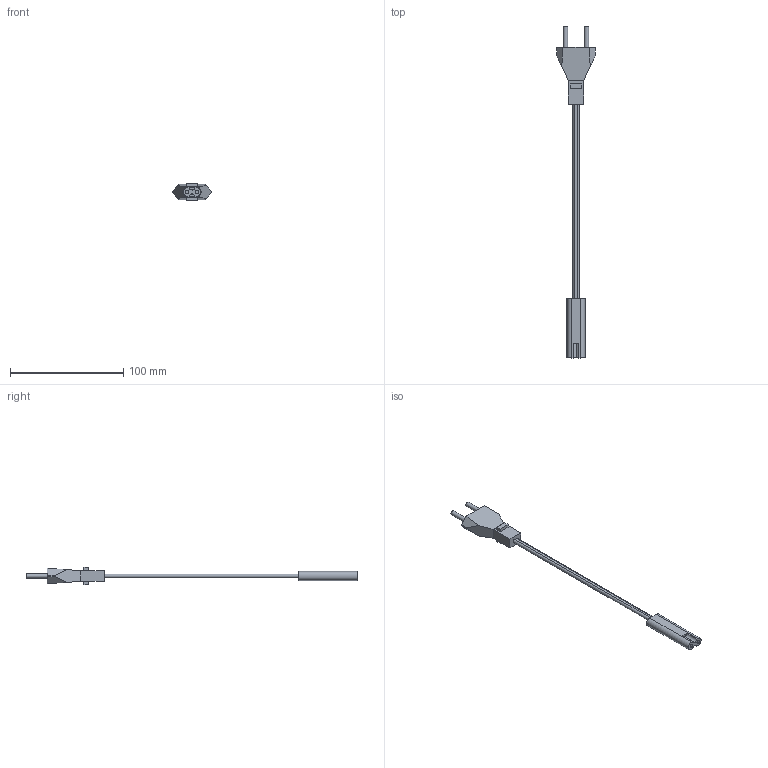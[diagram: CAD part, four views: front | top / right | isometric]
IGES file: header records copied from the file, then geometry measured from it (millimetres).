
Start section: Data from Parasolid IGES Translator 20.0.26, Copyright(c) 2006 Siemens P LM Software. All Rights Reserved.
Global section: file name: 9309943.igs; native system: By Siemens PLM Incorporated; preprocessor: XPlus GENERIC/IGES 20.0.26; author: Noname; organization: Noname; date: 20211203.152439; units: millimetre
Bounding box: 34.24 x 293.57 x 15.5 mm (x, y, z)
Surface area: 9527.6 mm2 (no closed solid volume)
Topology: 0 solids, 0 shells, 49 faces, 234 edges, 228 vertices
Faces by surface type: extrusion 38, revolution 11
